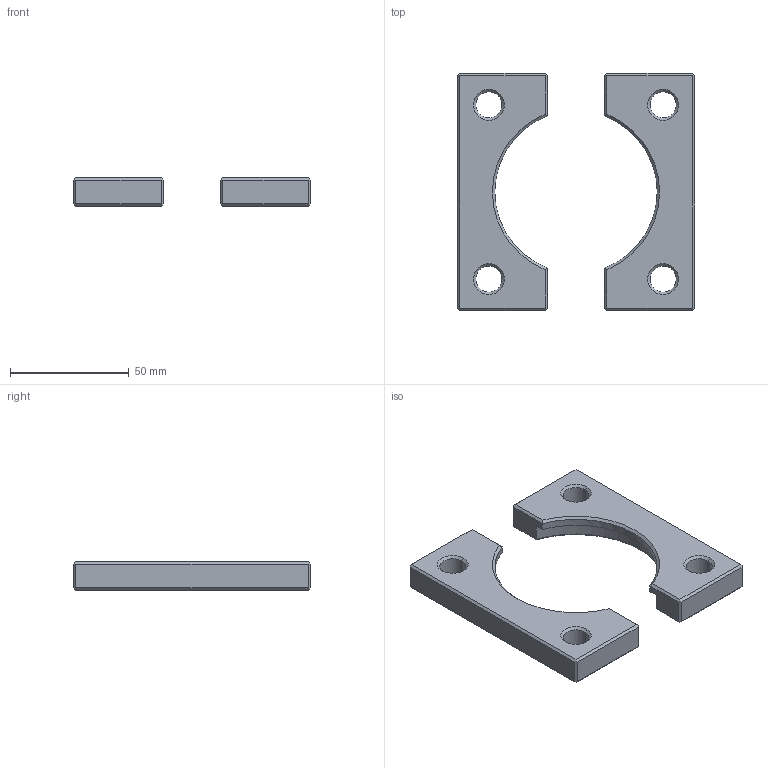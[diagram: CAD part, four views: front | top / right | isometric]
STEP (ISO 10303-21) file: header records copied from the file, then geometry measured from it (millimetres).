
FILE_DESCRIPTION(('CATIA V5 STEP Exchange'),'2;1');
FILE_NAME('W:\CATALOGO GENERAL 2018\FICHEROS CAD\023-BRIDAS\03-FP\FP 75.stp','2017-11-28T15:11:05+00:00',('none'),('none'),'CATIA Version 5 Release 17 (IN-10)','CATIA V5 STEP AP203','none');
FILE_SCHEMA(('CONFIG_CONTROL_DESIGN'));
Length unit declared in the file: millimetre
Products named in the file (1): FP 75
Bounding box: 100 x 100 x 12 mm (x, y, z)
Volume: 55992.4 mm3; surface area: 18177.8 mm2
Topology: 2 solids, 2 shells, 80 faces, 202 edges, 126 vertices
Faces by surface type: plane 44, cone 22, cylinder 14
Entity records: 2406 total; most frequent: CARTESIAN_POINT 565, ORIENTED_EDGE 404, DIRECTION 300, EDGE_CURVE 202, VERTEX_POINT 126, AXIS2_PLACEMENT_3D 125, VECTOR 96, LINE 96
